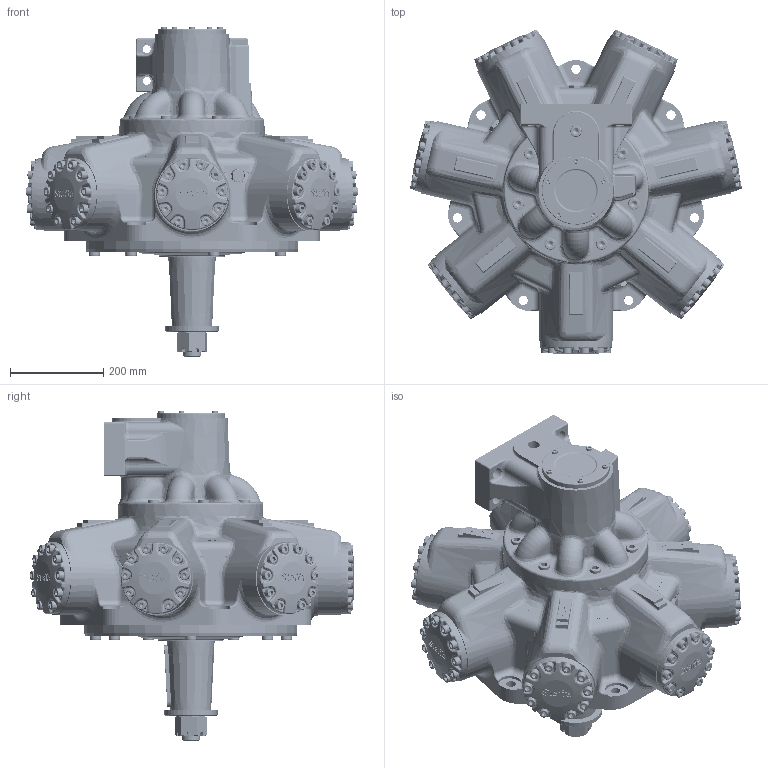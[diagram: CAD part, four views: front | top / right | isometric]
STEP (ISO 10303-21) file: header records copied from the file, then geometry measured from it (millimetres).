
FILE_DESCRIPTION(/* description */ (''),/* implementation_level */ '2;1');
FILE_NAME(/* name */ 'HMB270 T SM4 70.stp',/* time_stamp */ '2025-09-11T12:07:25+01:00',/* author */ ('ccallanga'),/* organization */ (''),/* preprocessor_version */ 'ST-DEVELOPER v20',/* originating_system */ 'Autodesk Inventor 2024',/* authorisation */ '');
FILE_SCHEMA (('AUTOMOTIVE_DESIGN { 1 0 10303 214 3 1 1 }'));
Length unit declared in the file: millimetre
Products named in the file (1): HMB270 Web Assembly_Simplify_1
Bounding box: 711.04 x 695.71 x 708.59 mm (x, y, z)
Volume: 69785769.5 mm3; surface area: 1665628.8 mm2
Topology: 1 solids, 1 shells, 6766 faces, 16549 edges, 9863 vertices
Faces by surface type: bspline 2701, plane 1976, cylinder 1248, torus 502, sphere 176, cone 163
Full cylindrical faces by diameter (mm): 2.2 x4, 2.65 x4, 11.913 x5, 12.7 x5, 14.351 x2, 16.51 x1, 17 x4, 19.05 x70, 20 x7, 20.637 x70, 23.825 x14, 25 x4, 25.4 x14, 26.92 x2, 38 x2, 38.1 x4, 101.574 x1, 106.68 x1, 114.3 x1, 139.7 x1, 146.05 x1, 311 x1, 311.15 x1, 457.11 x1
Entity records: 299718 total; most frequent: CARTESIAN_POINT 154376, ORIENTED_EDGE 32490, DIRECTION 22416, EDGE_CURVE 16245, VERTEX_POINT 9863, AXIS2_PLACEMENT_3D 8379, EDGE_LOOP 7172, STYLED_ITEM 6767
